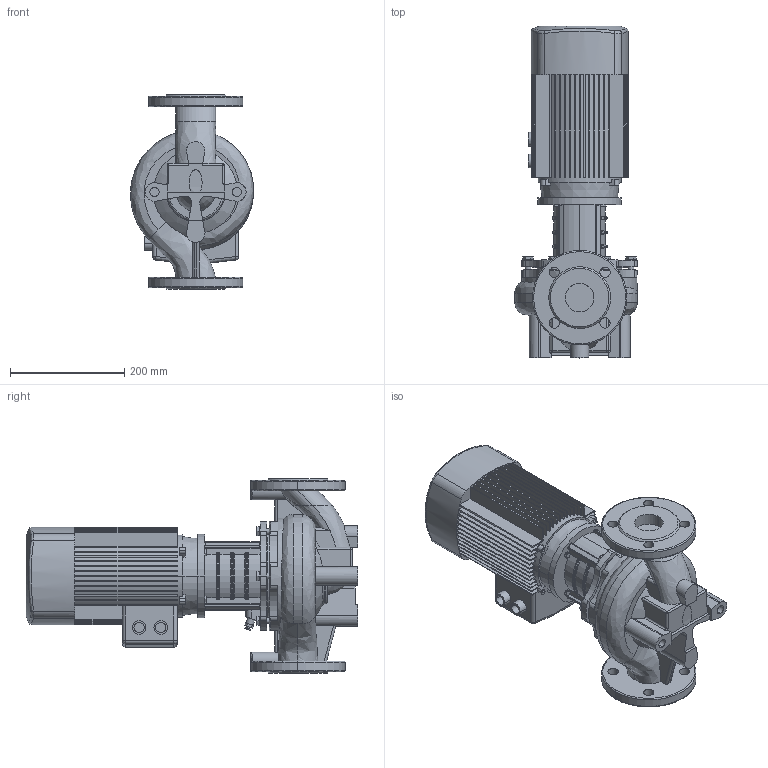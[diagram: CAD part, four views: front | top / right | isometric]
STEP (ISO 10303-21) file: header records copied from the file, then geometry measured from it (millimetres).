
FILE_DESCRIPTION(/* description */ (''),/* implementation_level */ '2;1');
FILE_NAME(/* name */ 'TD50-18-2安装尺寸图.stp',/* time_stamp */ '2026-09-07T15:15:30+08:00',/* author */ (''),/* organization */ (''),/* preprocessor_version */ 'ST-DEVELOPER v16.7',/* originating_system */ 'SIEMENS PLM Software NX 1847',/* authorisation */ '');
FILE_SCHEMA (('AP203_CONFIGURATION_CONTROLLED_3D_DESIGN_OF_MECHANICAL_PARTS_AND_ASSEMBLIES_MIM_LF { 1 0 10303 403 2 1 2}'));
Length unit declared in the file: millimetre
Products named in the file (1): Admi55F8EAC4z0u2
Bounding box: 214.94 x 580 x 340 mm (x, y, z)
Volume: 13001427.6 mm3; surface area: 888701.3 mm2
Topology: 1 solids, 7 shells, 1020 faces, 2646 edges, 1648 vertices
Faces by surface type: plane 455, cylinder 327, torus 95, cone 75, bspline 38, sphere 30
Full cylindrical faces by diameter (mm): 8 x1, 8.88 x4, 9.732 x6, 10 x1, 12.9 x1, 14.63 x6
Entity records: 36171 total; most frequent: CARTESIAN_POINT 11461, DIRECTION 5239, ORIENTED_EDGE 5140, EDGE_CURVE 2570, AXIS2_PLACEMENT_3D 2038, VERTEX_POINT 1631, LINE 1163, VECTOR 1163
